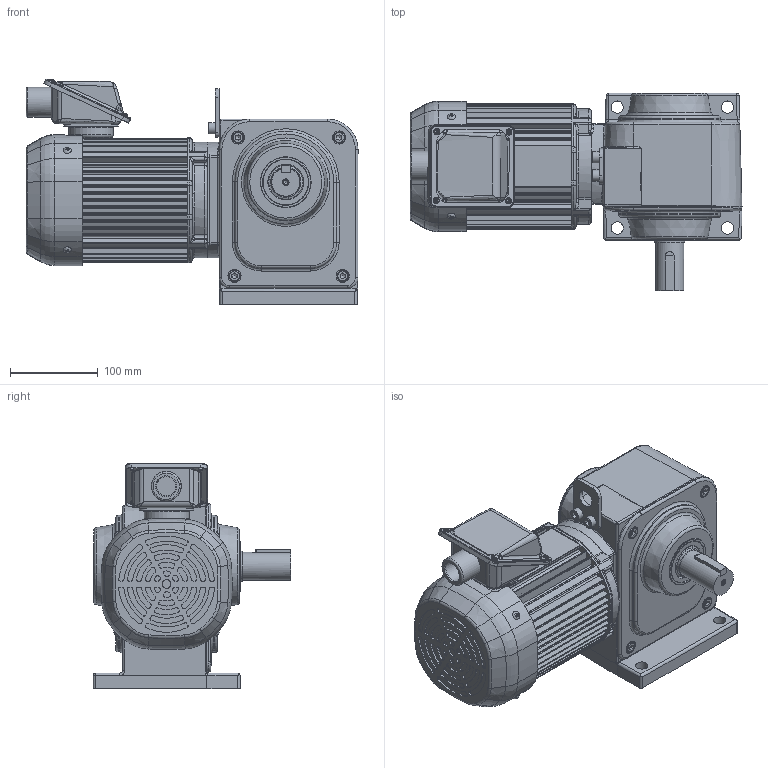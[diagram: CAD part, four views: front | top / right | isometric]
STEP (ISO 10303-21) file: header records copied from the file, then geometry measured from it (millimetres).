
FILE_DESCRIPTION( ( 'Unknown' ), '1' );
FILE_NAME( 'W:/gm/3D-WEB/GV-SHY/完成品/パーツ/完成品/完成品(GV-SHY_脚取付_1.5kW_ﾌﾞﾚｰｷ無_C_RR).stp', 'Unknown', ( 'Unknown' ), ( 'Unknown' ), 'PSStep 11.0', 'Unknown', ' ' );
FILE_SCHEMA( ( 'AUTOMOTIVE_DESIGN { 1 0 10303 214 1 1 1 1 }' ) );
Length unit declared in the file: millimetre
Products named in the file (6): P265322H10_ 衛偯枆參
Bounding box: 379.09 x 226 x 257.52 mm (x, y, z)
Volume: 6191945.8 mm3; surface area: 565886.6 mm2
Topology: 6 solids, 25 shells, 1700 faces, 4245 edges, 2687 vertices
Faces by surface type: cylinder 752, plane 655, torus 114, bspline 112, cone 53, sphere 14
Full cylindrical faces by diameter (mm): 3.8 x4, 4 x6, 4.2 x8, 4.5 x16, 4.917 x5, 5 x8, 5.5 x8, 5.8 x4, 6 x8, 6.2 x1, 6.647 x4, 7 x4, 8 x2, 10 x4, 13 x6, 14 x4, 15 x4, 20 x1, 22 x1, 23 x1, 24.117 x2, 25 x2, 30 x1, 32 x1, 34 x3, 35 x1, 41.5 x1, 45 x1, 48 x2, 50 x1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
Entity records: 75736 total; most frequent: CARTESIAN_POINT 22493, DIRECTION 8516, ORIENTED_EDGE 7926, EDGE_CURVE 3963, AXIS2_PLACEMENT_3D 3358, VERTEX_POINT 2614, EDGE_LOOP 2034, FACE_OUTER_BOUND 1851
